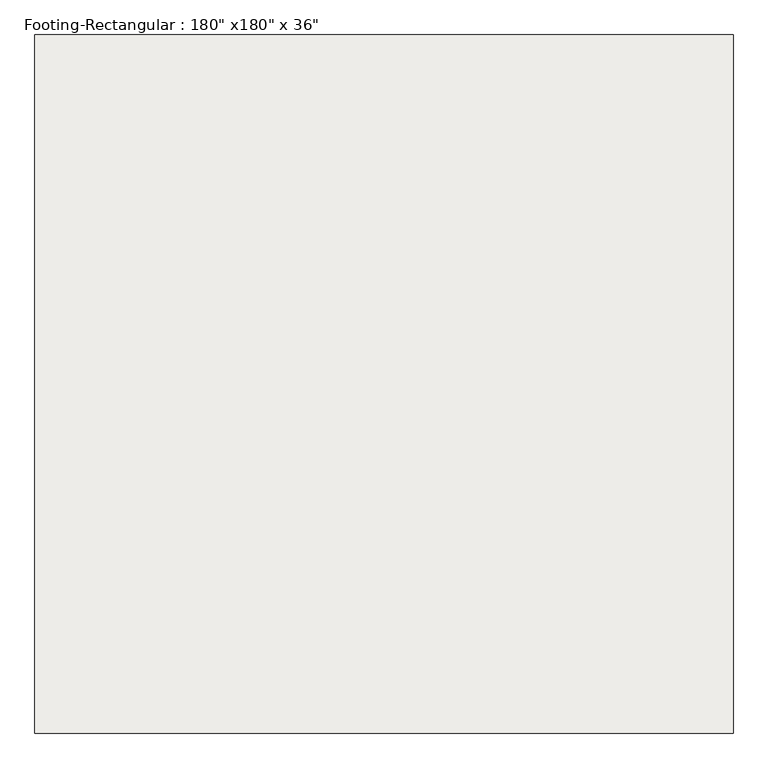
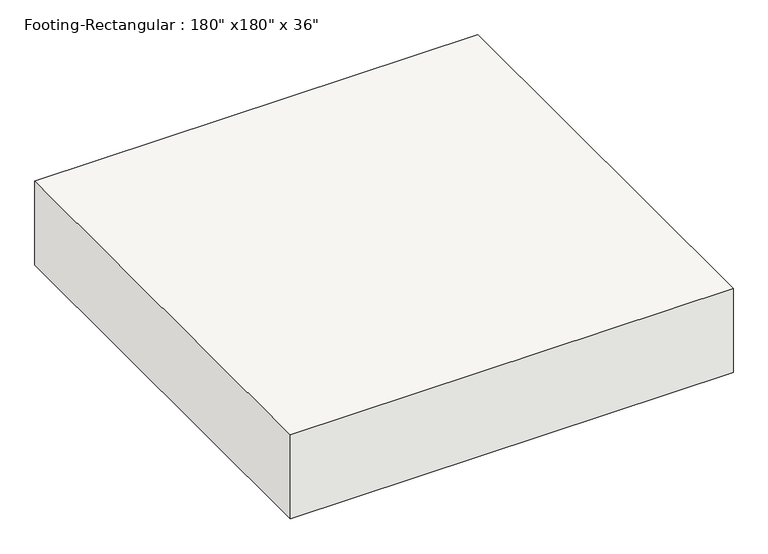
"""IFC4 building model written with IfcOpenShell, lengths in millimetres: slab geometry."""

from ifc_helpers import new_model, si_unit, frame, origin, place, context, project, spatial, polyline, outline, extrude, source, transform, mapped, element, save


def slab_50b121dc(model_context):
    return source(origin(), model_context, "Body", "SweptSolid", [
        extrude(outline(polyline([(2286.0, 2286.0), (2286.0, -2286.0), (-2286.0, -2286.0), (-2286.0, 2286.0), (2286.0, 2286.0)])), frame((0.0, 0.0, -914.4), z_axis=(0.0, 0.0, 1.0), x_axis=(1.0, 0.0, 0.0)), (0.0, 0.0, 1.0), 914.4),
    ])


if __name__ == "__main__":
    model = new_model("IFC4")
    model_context = context("Model", 3, world=origin())
    ifc_project = project(units=[si_unit("LENGTHUNIT", "METRE", prefix="MILLI")], contexts=[model_context])
    site = spatial("IfcSite", under=ifc_project)
    building = spatial("IfcBuilding", under=site)
    placement = place(None, origin())
    slab_shape = slab_50b121dc(model_context)
    element("IfcSlab", 1, ObjectType="Footing-Rectangular : 180\" x180\" x 36\"", at=placement, inside=building, context=model_context, shape_type="MappedRepresentation", body=[
        mapped(slab_shape, transform((0.0, 0.0, 0.0), x_axis=(1.0, 0.0, 0.0), y_axis=(0.0, 1.0, 0.0), z_axis=(0.0, 0.0, 1.0))),
    ])
    save(model, "model.ifc")
